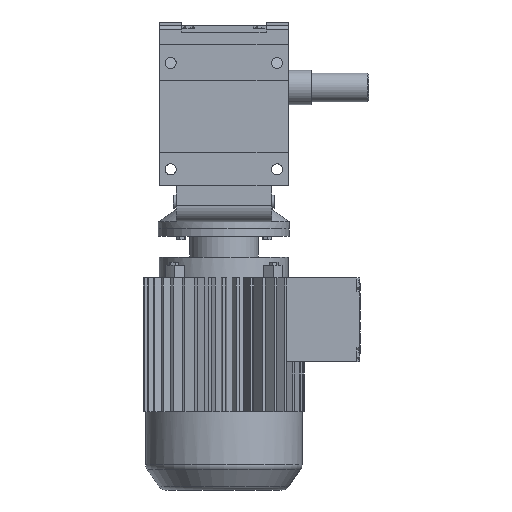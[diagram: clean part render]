
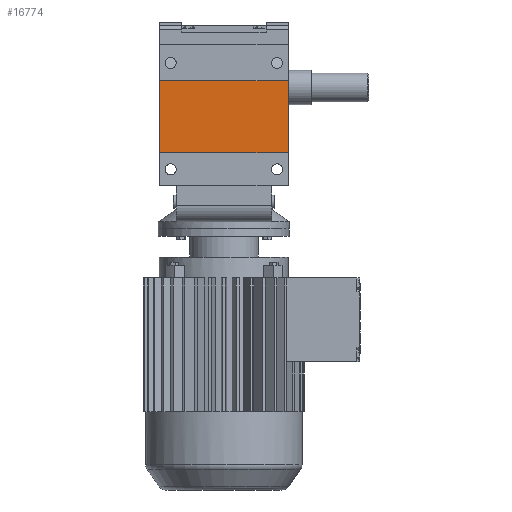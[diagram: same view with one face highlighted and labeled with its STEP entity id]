
A CAD part, front view. The second image highlights one B-rep face of the part: STEP entity #16774.
In plain terms, the highlighted planar face has unit normal (0, -1, 0).
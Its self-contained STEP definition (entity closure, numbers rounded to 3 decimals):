
#6327 = PLANE('',#6328);
#6328 = AXIS2_PLACEMENT_3D('',#6329,#6330,#6331);
#6329 = CARTESIAN_POINT('',(-78.5,-101.38,54.));
#6330 = DIRECTION('',(1.,0.,0.));
#6331 = DIRECTION('',(0.,0.,-1.));
#8248 = PLANE('',#8249);
#8249 = AXIS2_PLACEMENT_3D('',#8250,#8251,#8252);
#8250 = CARTESIAN_POINT('',(78.5,-101.38,54.));
#8251 = DIRECTION('',(1.,0.,0.));
#8252 = DIRECTION('',(0.,0.,-1.));
#11574 = VERTEX_POINT('',#11575);
#11575 = CARTESIAN_POINT('',(-78.5,-127.38,-80.));
#11589 = PLANE('',#11590);
#11590 = AXIS2_PLACEMENT_3D('',#11591,#11592,#11593);
#11591 = CARTESIAN_POINT('',(78.5,-127.38,-80.));
#11592 = DIRECTION('',(0.,0.,-1.));
#11593 = DIRECTION('',(-1.,0.,0.));
#11601 = EDGE_CURVE('',#11602,#11574,#11604,.T.);
#11602 = VERTEX_POINT('',#11603);
#11603 = CARTESIAN_POINT('',(-78.5,-127.38,8.));
#11604 = SURFACE_CURVE('',#11605,(#11609,#11616),.PCURVE_S1.);
#11605 = LINE('',#11606,#11607);
#11606 = CARTESIAN_POINT('',(-78.5,-127.38,8.));
#11607 = VECTOR('',#11608,1.);
#11608 = DIRECTION('',(0.,0.,-1.));
#11609 = PCURVE('',#6327,#11610);
#11610 = DEFINITIONAL_REPRESENTATION('',(#11611),#11615);
#11611 = LINE('',#11612,#11613);
#11612 = CARTESIAN_POINT('',(46.,-26.));
#11613 = VECTOR('',#11614,1.);
#11614 = DIRECTION('',(1.,0.));
#11615 = ( GEOMETRIC_REPRESENTATION_CONTEXT(2) 
PARAMETRIC_REPRESENTATION_CONTEXT() REPRESENTATION_CONTEXT('2D SPACE',''
  ) );
#11616 = PCURVE('',#11617,#11622);
#11617 = PLANE('',#11618);
#11618 = AXIS2_PLACEMENT_3D('',#11619,#11620,#11621);
#11619 = CARTESIAN_POINT('',(58.25,-127.38,59.));
#11620 = DIRECTION('',(0.,1.,0.));
#11621 = DIRECTION('',(0.,0.,1.));
#11622 = DEFINITIONAL_REPRESENTATION('',(#11623),#11627);
#11623 = LINE('',#11624,#11625);
#11624 = CARTESIAN_POINT('',(-51.,-136.75));
#11625 = VECTOR('',#11626,1.);
#11626 = DIRECTION('',(-1.,0.));
#11627 = ( GEOMETRIC_REPRESENTATION_CONTEXT(2) 
PARAMETRIC_REPRESENTATION_CONTEXT() REPRESENTATION_CONTEXT('2D SPACE',''
  ) );
#11645 = PLANE('',#11646);
#11646 = AXIS2_PLACEMENT_3D('',#11647,#11648,#11649);
#11647 = CARTESIAN_POINT('',(78.5,-127.38,8.));
#11648 = DIRECTION('',(0.,0.,1.));
#11649 = DIRECTION('',(0.,-1.,0.));
#14190 = VERTEX_POINT('',#14191);
#14191 = CARTESIAN_POINT('',(78.5,-127.38,8.));
#14212 = EDGE_CURVE('',#14190,#14213,#14215,.T.);
#14213 = VERTEX_POINT('',#14214);
#14214 = CARTESIAN_POINT('',(78.5,-127.38,-80.));
#14215 = SURFACE_CURVE('',#14216,(#14220,#14227),.PCURVE_S1.);
#14216 = LINE('',#14217,#14218);
#14217 = CARTESIAN_POINT('',(78.5,-127.38,8.));
#14218 = VECTOR('',#14219,1.);
#14219 = DIRECTION('',(0.,0.,-1.));
#14220 = PCURVE('',#8248,#14221);
#14221 = DEFINITIONAL_REPRESENTATION('',(#14222),#14226);
#14222 = LINE('',#14223,#14224);
#14223 = CARTESIAN_POINT('',(46.,-26.));
#14224 = VECTOR('',#14225,1.);
#14225 = DIRECTION('',(1.,0.));
#14226 = ( GEOMETRIC_REPRESENTATION_CONTEXT(2) 
PARAMETRIC_REPRESENTATION_CONTEXT() REPRESENTATION_CONTEXT('2D SPACE',''
  ) );
#14227 = PCURVE('',#11617,#14228);
#14228 = DEFINITIONAL_REPRESENTATION('',(#14229),#14233);
#14229 = LINE('',#14230,#14231);
#14230 = CARTESIAN_POINT('',(-51.,20.25));
#14231 = VECTOR('',#14232,1.);
#14232 = DIRECTION('',(-1.,0.));
#14233 = ( GEOMETRIC_REPRESENTATION_CONTEXT(2) 
PARAMETRIC_REPRESENTATION_CONTEXT() REPRESENTATION_CONTEXT('2D SPACE',''
  ) );
#16774 = ADVANCED_FACE('',(#16775),#11617,.F.);
#16775 = FACE_BOUND('',#16776,.T.);
#16776 = EDGE_LOOP('',(#16777,#16798,#16799,#16820));
#16777 = ORIENTED_EDGE('',*,*,#16778,.T.);
#16778 = EDGE_CURVE('',#14190,#11602,#16779,.T.);
#16779 = SURFACE_CURVE('',#16780,(#16784,#16791),.PCURVE_S1.);
#16780 = LINE('',#16781,#16782);
#16781 = CARTESIAN_POINT('',(78.5,-127.38,8.));
#16782 = VECTOR('',#16783,1.);
#16783 = DIRECTION('',(-1.,0.,0.));
#16784 = PCURVE('',#11617,#16785);
#16785 = DEFINITIONAL_REPRESENTATION('',(#16786),#16790);
#16786 = LINE('',#16787,#16788);
#16787 = CARTESIAN_POINT('',(-51.,20.25));
#16788 = VECTOR('',#16789,1.);
#16789 = DIRECTION('',(0.,-1.));
#16790 = ( GEOMETRIC_REPRESENTATION_CONTEXT(2) 
PARAMETRIC_REPRESENTATION_CONTEXT() REPRESENTATION_CONTEXT('2D SPACE',''
  ) );
#16791 = PCURVE('',#11645,#16792);
#16792 = DEFINITIONAL_REPRESENTATION('',(#16793),#16797);
#16793 = LINE('',#16794,#16795);
#16794 = CARTESIAN_POINT('',(0.,0.));
#16795 = VECTOR('',#16796,1.);
#16796 = DIRECTION('',(0.,-1.));
#16797 = ( GEOMETRIC_REPRESENTATION_CONTEXT(2) 
PARAMETRIC_REPRESENTATION_CONTEXT() REPRESENTATION_CONTEXT('2D SPACE',''
  ) );
#16798 = ORIENTED_EDGE('',*,*,#11601,.T.);
#16799 = ORIENTED_EDGE('',*,*,#16800,.F.);
#16800 = EDGE_CURVE('',#14213,#11574,#16801,.T.);
#16801 = SURFACE_CURVE('',#16802,(#16806,#16813),.PCURVE_S1.);
#16802 = LINE('',#16803,#16804);
#16803 = CARTESIAN_POINT('',(78.5,-127.38,-80.));
#16804 = VECTOR('',#16805,1.);
#16805 = DIRECTION('',(-1.,0.,0.));
#16806 = PCURVE('',#11617,#16807);
#16807 = DEFINITIONAL_REPRESENTATION('',(#16808),#16812);
#16808 = LINE('',#16809,#16810);
#16809 = CARTESIAN_POINT('',(-139.,20.25));
#16810 = VECTOR('',#16811,1.);
#16811 = DIRECTION('',(0.,-1.));
#16812 = ( GEOMETRIC_REPRESENTATION_CONTEXT(2) 
PARAMETRIC_REPRESENTATION_CONTEXT() REPRESENTATION_CONTEXT('2D SPACE',''
  ) );
#16813 = PCURVE('',#11589,#16814);
#16814 = DEFINITIONAL_REPRESENTATION('',(#16815),#16819);
#16815 = LINE('',#16816,#16817);
#16816 = CARTESIAN_POINT('',(0.,0.));
#16817 = VECTOR('',#16818,1.);
#16818 = DIRECTION('',(1.,0.));
#16819 = ( GEOMETRIC_REPRESENTATION_CONTEXT(2) 
PARAMETRIC_REPRESENTATION_CONTEXT() REPRESENTATION_CONTEXT('2D SPACE',''
  ) );
#16820 = ORIENTED_EDGE('',*,*,#14212,.F.);
